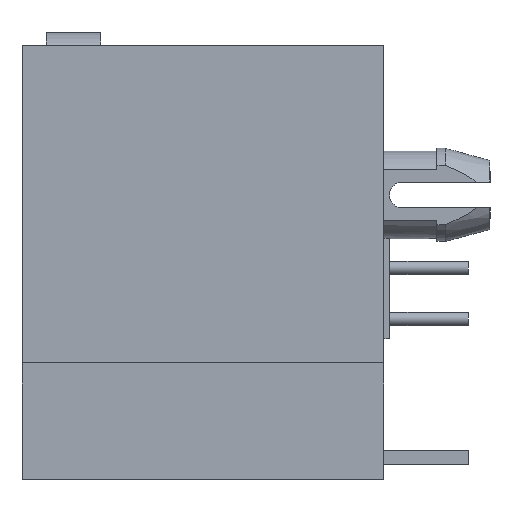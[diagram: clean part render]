
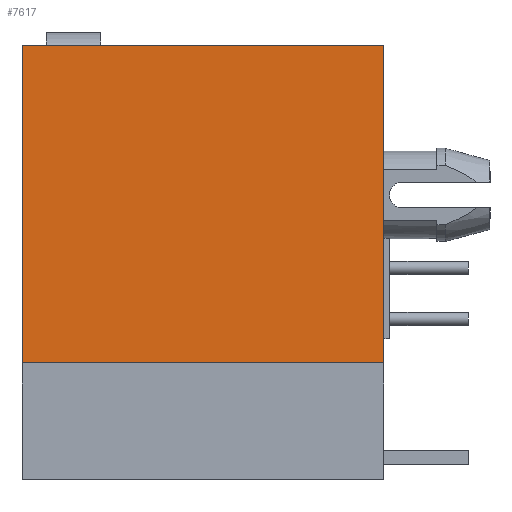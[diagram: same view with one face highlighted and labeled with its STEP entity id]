
A CAD part, left-side view. The second image highlights one B-rep face of the part: STEP entity #7617.
In plain terms, the highlighted planar face has unit normal (-1, 0, 0).
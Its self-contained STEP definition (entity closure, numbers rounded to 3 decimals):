
#466=DIRECTION('',(0.,-1.,0.));
#467=VECTOR('',#466,12.6);
#468=CARTESIAN_POINT('',(-7.85,12.6,15.1));
#469=LINE('',#468,#467);
#542=DIRECTION('',(0.,-1.,0.));
#543=VECTOR('',#542,12.6);
#544=CARTESIAN_POINT('',(-7.85,12.6,4.05));
#545=LINE('',#544,#543);
#546=DIRECTION('',(0.,0.,1.));
#547=VECTOR('',#546,11.05);
#548=CARTESIAN_POINT('',(-7.85,12.6,4.05));
#549=LINE('',#548,#547);
#1040=DIRECTION('',(0.,0.,1.));
#1041=VECTOR('',#1040,11.05);
#1042=CARTESIAN_POINT('',(-7.85,0.,4.05));
#1043=LINE('',#1042,#1041);
#5573=CARTESIAN_POINT('',(-7.85,12.6,15.1));
#5574=CARTESIAN_POINT('',(-7.85,0.,15.1));
#5575=VERTEX_POINT('',#5573);
#5576=VERTEX_POINT('',#5574);
#7093=CARTESIAN_POINT('',(-7.85,12.6,4.05));
#7094=CARTESIAN_POINT('',(-7.85,0.,4.05));
#7095=VERTEX_POINT('',#7093);
#7096=VERTEX_POINT('',#7094);
#7603=CARTESIAN_POINT('',(-7.85,12.6,0.));
#7604=DIRECTION('',(-1.,0.,0.));
#7605=DIRECTION('',(0.,-1.,0.));
#7606=AXIS2_PLACEMENT_3D('',#7603,#7604,#7605);
#7607=PLANE('',#7606);
#7609=ORIENTED_EDGE('',*,*,#7608,.F.);
#7611=ORIENTED_EDGE('',*,*,#7610,.F.);
#7613=ORIENTED_EDGE('',*,*,#7612,.T.);
#7614=ORIENTED_EDGE('',*,*,#7541,.T.);
#7615=EDGE_LOOP('',(#7609,#7611,#7613,#7614));
#7616=FACE_OUTER_BOUND('',#7615,.F.);
#7617=ADVANCED_FACE('',(#7616),#7607,.T.);
#7541=EDGE_CURVE('',#5575,#5576,#469,.T.);
#7608=EDGE_CURVE('',#7096,#5576,#1043,.T.);
#7610=EDGE_CURVE('',#7095,#7096,#545,.T.);
#7612=EDGE_CURVE('',#7095,#5575,#549,.T.);
